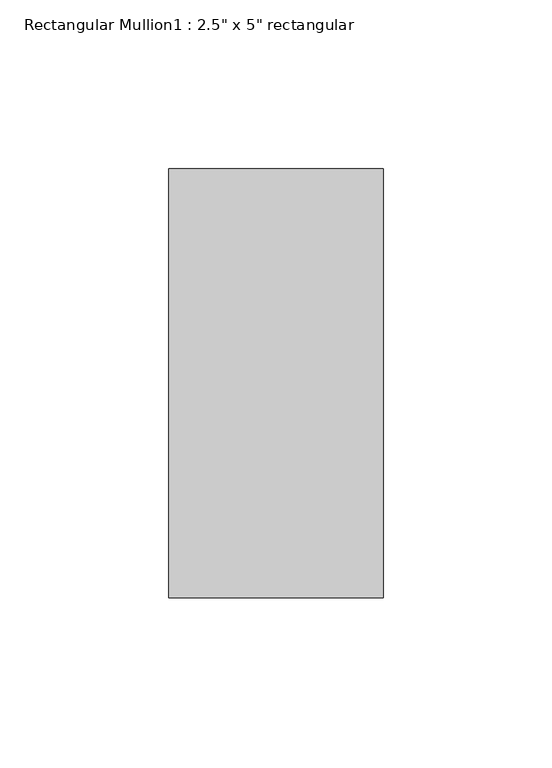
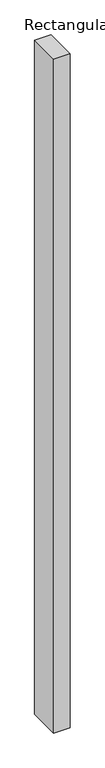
"""IFC4 building model written with IfcOpenShell, lengths in millimetres: member geometry."""

import ifcopenshell
import ifcopenshell.guid

model = None  # the IFC model being written
_history = None  # IfcOwnerHistory: only IFC2X3 demands one
_inside = {}  # id of a spatial element -> (the spatial element, [elements in it])
_under = {}  # id of a project, library or spatial element -> (it, [spatial elements below it])
_declared = {}  # id of a project -> (the project, [libraries it declares])
_typed = {}  # id of a type object -> (the type object, [elements of that type])
_made_of = {}  # id of a material, layer set ... -> (it, [elements and type objects made of it])


def new_model(schema):
    """Start an empty IFC model of exactly this schema.

    Asked for "IFC4X3", IfcOpenShell would pick the latest addendum, in which some entities
    have other attributes; the version numbers below select the first issue.
    IFC2X3 requires an IfcOwnerHistory on every rooted entity: one is made here for all.
    """
    global model, _history
    if schema == "IFC4X3":
        model = ifcopenshell.file(schema_version=(4, 3, 0, 0))
    else:
        model = ifcopenshell.file(schema=schema)
    _inside.clear()
    _under.clear()
    _declared.clear()
    _typed.clear()
    _made_of.clear()
    _history = None
    if model.schema == "IFC2X3":
        org = make("IfcOrganization", Name="unknown")
        user = make(
            "IfcPersonAndOrganization",
            ThePerson=make("IfcPerson", FamilyName="unknown"),
            TheOrganization=org,
        )
        app = make(
            "IfcApplication",
            ApplicationDeveloper=org,
            Version="unknown",
            ApplicationFullName="unknown",
            ApplicationIdentifier="unknown",
        )
        _history = make(
            "IfcOwnerHistory",
            OwningUser=user,
            OwningApplication=app,
            ChangeAction="ADDED",
            CreationDate=0,
        )
    return model


def make(cls, **values):
    """One entity of the class cls with the attributes given. An attribute that is None is left unset."""
    return model.create_entity(
        cls, **{name: value for name, value in values.items() if value is not None}
    )


def rooted(cls, **values):
    """An entity with a GlobalId (a new one), such as an element, a storey or a relation."""
    return make(cls, GlobalId=ifcopenshell.guid.new(), OwnerHistory=_history, **values)


def si_unit(unit_type, name, prefix=None):
    """IfcSIUnit, for example si_unit("LENGTHUNIT", "METRE", prefix="MILLI")."""
    return make("IfcSIUnit", UnitType=unit_type, Prefix=prefix, Name=name)


def assignment(units):
    """IfcUnitAssignment: the units of a project."""
    return None if units is None else make("IfcUnitAssignment", Units=units)


def point(xyz):
    """IfcCartesianPoint."""
    return None if xyz is None else make("IfcCartesianPoint", Coordinates=xyz)


def direction(xyz):
    """IfcDirection."""
    return None if xyz is None else make("IfcDirection", DirectionRatios=xyz)


def frame(location, z_axis=None, x_axis=None):
    """IfcAxis2Placement3D, a coordinate frame: its origin and axes. An axis left out is left unset."""
    return make(
        "IfcAxis2Placement3D",
        Location=point(location),
        Axis=direction(z_axis),
        RefDirection=direction(x_axis),
    )


def origin():
    """The frame at (0, 0, 0) with its axes left unset."""
    return frame((0.0, 0.0, 0.0))


def place(relative_to, where):
    """IfcLocalPlacement: puts the frame where relative to a parent placement (None: the world)."""
    return make(
        "IfcLocalPlacement", PlacementRelTo=relative_to, RelativePlacement=where
    )


def context(
    kind, dimensions, precision=None, world=None, true_north=None, identifier=None
):
    """IfcGeometricRepresentationContext, for example the 3D "Model" context."""
    return make(
        "IfcGeometricRepresentationContext",
        ContextIdentifier=identifier,
        ContextType=kind,
        CoordinateSpaceDimension=dimensions,
        Precision=precision,
        WorldCoordinateSystem=world,
        TrueNorth=true_north,
    )


def project(units=None, contexts=None):
    """IfcProject with its units and contexts."""
    return rooted(
        "IfcProject",
        Name="project",
        RepresentationContexts=contexts,
        UnitsInContext=assignment(units),
    )


def spatial(cls, under=None, at=None, **own):
    """A site, building, storey or space (cls), placed at a placement, below another one or the project."""
    s = rooted(cls, ObjectPlacement=at, **own)
    if under is not None:
        _under.setdefault(under.id(), (under, []))[1].append(s)
    return s


def polyline(points):
    """IfcPolyline through the points."""
    return make("IfcPolyline", Points=[point(p) for p in points])


def outline(outer, holes=None, kind="AREA"):
    """IfcArbitraryClosedProfileDef: a profile drawn as a closed curve; with holes, ...WithVoids."""
    if holes is None:
        return make("IfcArbitraryClosedProfileDef", ProfileType=kind, OuterCurve=outer)
    return make(
        "IfcArbitraryProfileDefWithVoids",
        ProfileType=kind,
        OuterCurve=outer,
        InnerCurves=holes,
    )


def extrude(swept, where, along, depth):
    """IfcExtrudedAreaSolid: the profile swept, set in the frame where, extruded along a direction by depth."""
    return make(
        "IfcExtrudedAreaSolid",
        SweptArea=swept,
        Position=where,
        ExtrudedDirection=direction(along),
        Depth=depth,
    )


def shape(context_of_items, identifier, shape_type, items):
    """IfcShapeRepresentation: the items that make up one representation, for example the "Body"."""
    return make(
        "IfcShapeRepresentation",
        ContextOfItems=context_of_items,
        RepresentationIdentifier=identifier,
        RepresentationType=shape_type,
        Items=items,
    )


def source(mapping_origin, context_of_items, identifier, shape_type, items):
    """IfcRepresentationMap: a shape defined once, which mapped items show again and again."""
    return make(
        "IfcRepresentationMap",
        MappingOrigin=mapping_origin,
        MappedRepresentation=shape(context_of_items, identifier, shape_type, items),
    )


def transform(
    local_origin,
    x_axis=None,
    y_axis=None,
    z_axis=None,
    scale=None,
    scale2=None,
    scale3=None,
    uniform=True,
):
    """IfcCartesianTransformationOperator3D, or its non-uniform kind. x_axis, y_axis, z_axis: its Axis1, 2, 3."""
    if uniform:
        return make(
            "IfcCartesianTransformationOperator3D",
            Axis1=direction(x_axis),
            Axis2=direction(y_axis),
            LocalOrigin=point(local_origin),
            Scale=scale,
            Axis3=direction(z_axis),
        )
    return make(
        "IfcCartesianTransformationOperator3DnonUniform",
        Axis1=direction(x_axis),
        Axis2=direction(y_axis),
        LocalOrigin=point(local_origin),
        Scale=scale,
        Axis3=direction(z_axis),
        Scale2=scale2,
        Scale3=scale3,
    )


def mapped(mapping_source, mapping_target):
    """IfcMappedItem: shows the shape of a source again, moved by a transform."""
    return make(
        "IfcMappedItem", MappingSource=mapping_source, MappingTarget=mapping_target
    )


def made_of(thing, what):
    """Note that an element or type object is made of a material, layer set ...; save() writes the relation."""
    if what is not None:
        _made_of.setdefault(what.id(), (what, []))[1].append(thing)
    return thing


def element(
    cls,
    number,
    at=None,
    inside=None,
    cuts=None,
    type_object=None,
    material=None,
    context=None,
    identifier="Body",
    shape_type=None,
    held_by="IfcProductDefinitionShape",
    body=None,
    shapes=None,
    **own,
):
    """One element of the class cls, such as IfcWall. Its Tag is "e" and its number.

    at: its placement. inside: the storey or other place that contains it. cuts: it is an
    opening in that element (IfcRelVoidsElement). A single representation is given by context,
    identifier, shape_type and body (its items); several are given by shapes. held_by: the class
    of the entity that holds the representations. save() writes the other relations.
    """
    e = rooted(cls, Tag="e%d" % number, ObjectPlacement=at, **own)
    if body is not None:
        shapes = [shape(context, identifier, shape_type, body)]
    if shapes is not None:
        e.Representation = make(held_by, Representations=shapes)
    if inside is not None:
        _inside.setdefault(inside.id(), (inside, []))[1].append(e)
    if cuts is not None:
        rooted(
            "IfcRelVoidsElement", RelatingBuildingElement=cuts, RelatedOpeningElement=e
        )
    if type_object is not None:
        _typed.setdefault(type_object.id(), (type_object, []))[1].append(e)
    return made_of(e, material)


def aggregate(whole, parts):
    """IfcRelAggregates: a whole, such as a stair, and the parts it consists of."""
    return rooted("IfcRelAggregates", RelatingObject=whole, RelatedObjects=parts)


def save(model, path):
    """Write the relations noted so far, then the file.

    IfcRelAggregates (storeys below a building ...), IfcRelContainedInSpatialStructure (elements
    in a storey), IfcRelDefinesByType, IfcRelAssociatesMaterial and IfcRelDeclares: one each for
    every whole, place, type object, material and project.
    """
    for whole, parts in _under.values():
        aggregate(whole, parts)
    for where, things in _inside.values():
        rooted(
            "IfcRelContainedInSpatialStructure",
            RelatedElements=things,
            RelatingStructure=where,
        )
    for kind, things in _typed.values():
        rooted("IfcRelDefinesByType", RelatedObjects=things, RelatingType=kind)
    for what, things in _made_of.values():
        rooted("IfcRelAssociatesMaterial", RelatedObjects=things, RelatingMaterial=what)
    for by, libraries in _declared.values():
        rooted("IfcRelDeclares", RelatingContext=by, RelatedDefinitions=libraries)
    model.write(path)


def member_923d5781(model_context):
    return source(origin(), model_context, "Body", "SweptSolid", [
        extrude(outline(polyline([(31.75, 63.5), (31.75, -63.5), (-31.75, -63.5), (-31.75, 63.5), (31.75, 63.5)])), frame((0.0, 0.0, -2743.2), z_axis=(0.0, 0.0, 1.0), x_axis=(1.0, 0.0, 0.0)), (0.0, 0.0, 1.0), 2743.2),
    ])


if __name__ == "__main__":
    model = new_model("IFC4")
    model_context = context("Model", 3, world=origin())
    ifc_project = project(units=[si_unit("LENGTHUNIT", "METRE", prefix="MILLI")], contexts=[model_context])
    site = spatial("IfcSite", under=ifc_project)
    building = spatial("IfcBuilding", under=site)
    placement = place(None, origin())
    member_shape = member_923d5781(model_context)
    element("IfcMember", 1, ObjectType="Rectangular Mullion1 : 2.5\" x 5\" rectangular", at=placement, inside=building, context=model_context, shape_type="MappedRepresentation", body=[
        mapped(member_shape, transform((0.0, 0.0, 0.0), x_axis=(1.0, 0.0, 0.0), y_axis=(0.0, 1.0, 0.0), z_axis=(0.0, 0.0, 1.0))),
    ])
    save(model, "model.ifc")
